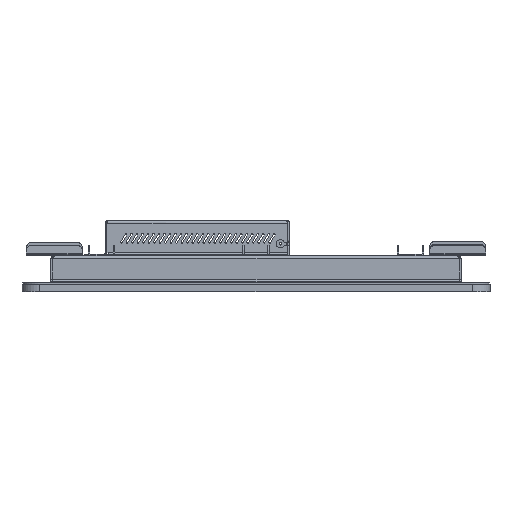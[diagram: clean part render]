
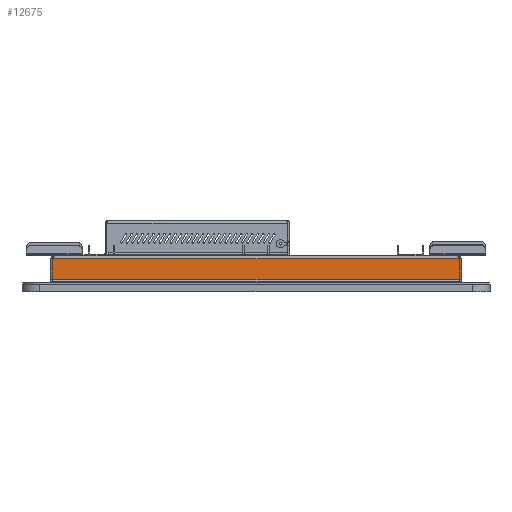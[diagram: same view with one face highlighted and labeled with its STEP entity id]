
A CAD part, left-side view. The second image highlights one B-rep face of the part: STEP entity #12675.
In plain terms, the highlighted planar face has unit normal (-1, 0, 0).
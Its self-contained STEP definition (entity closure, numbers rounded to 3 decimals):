
#12675=ADVANCED_FACE('',(#44673),#44675,.T.);
#44673=FACE_BOUND('',#44674,.T.);
#44674=EDGE_LOOP('',(#70465,#70466,#70467,#70468));
#44675=PLANE('',#44676);
#44676=AXIS2_PLACEMENT_3D('',#44677,#44678,#44679);
#44677=CARTESIAN_POINT('',(-329.4,66.4,254.912));
#44678=DIRECTION('',(-1.,0.,0.));
#44679=DIRECTION('',(0.,0.,1.));
#70465=ORIENTED_EDGE('',*,*,#89474,.T.);
#70466=ORIENTED_EDGE('',*,*,#89475,.T.);
#70467=ORIENTED_EDGE('',*,*,#85650,.F.);
#70468=ORIENTED_EDGE('',*,*,#89476,.T.);
#85650=EDGE_CURVE('',#97208,#97210,#97211,.T.);
#89474=EDGE_CURVE('',#103664,#103665,#103666,.T.);
#89475=EDGE_CURVE('',#103665,#97210,#103667,.T.);
#89476=EDGE_CURVE('',#97208,#103664,#103668,.T.);
#97208=VERTEX_POINT('',#118298);
#97210=VERTEX_POINT('',#118315);
#97211=LINE('',#118316,#118317);
#103664=VERTEX_POINT('',#133319);
#103665=VERTEX_POINT('',#133320);
#103666=LINE('',#133321,#133322);
#103667=LINE('',#133324,#133325);
#103668=LINE('',#133327,#133328);
#118298=CARTESIAN_POINT('',(-329.4,238.6,38.99));
#118315=CARTESIAN_POINT('',(-329.4,-106.6,38.99));
#118316=CARTESIAN_POINT('',(-329.4,238.6,38.99));
#118317=VECTOR('',#118318,1.);
#118318=DIRECTION('',(0.,-1.,0.));
#133319=CARTESIAN_POINT('',(-329.4,238.6,21.19));
#133320=CARTESIAN_POINT('',(-329.4,-106.6,21.19));
#133321=CARTESIAN_POINT('',(-329.4,238.6,21.19));
#133322=VECTOR('',#133323,1.);
#133323=DIRECTION('',(0.,-1.,0.));
#133324=CARTESIAN_POINT('',(-329.4,-106.6,21.19));
#133325=VECTOR('',#133326,1.);
#133326=DIRECTION('',(0.,0.,1.));
#133327=CARTESIAN_POINT('',(-329.4,238.6,38.99));
#133328=VECTOR('',#133329,1.);
#133329=DIRECTION('',(0.,0.,-1.));
